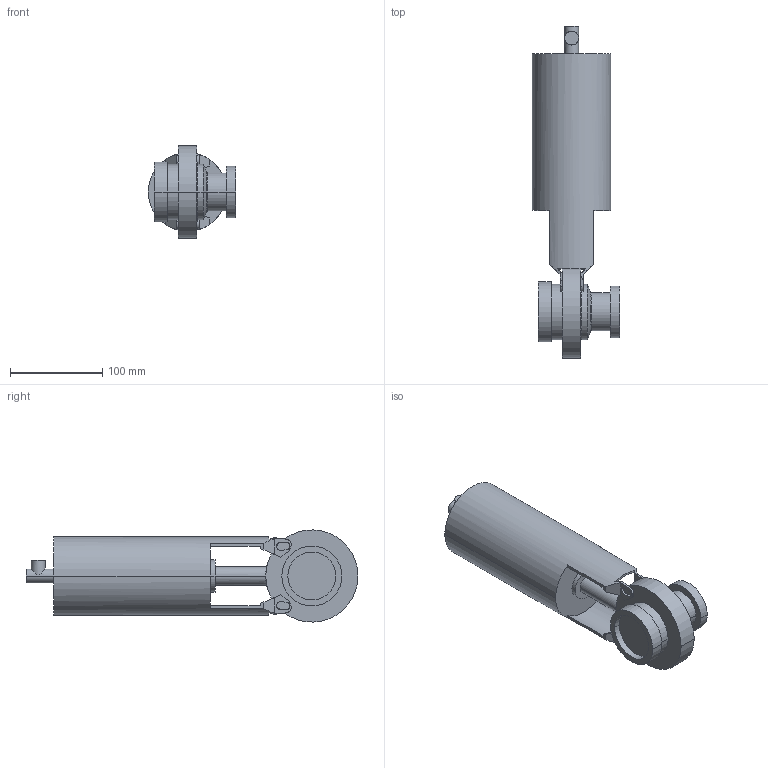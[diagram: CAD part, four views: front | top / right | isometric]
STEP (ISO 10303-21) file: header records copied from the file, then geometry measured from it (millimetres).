
FILE_DESCRIPTION(('Creo Elements/Direct Modeling STEP Export'),'2;1');
FILE_NAME('SV1-40-FZ-1K2G.stp','2013-02-15T14:06:38',(''),(''),'Creo Elements/Direct Modeling STEP processor for AP214 (Solid Model)','Creo Elements/Direct Modeling 17.0D 15-Jul-2011 (C) Parametric Technology GmbH','');
FILE_SCHEMA(('AUTOMOTIVE_DESIGN { 1 0 10303 214 1 1 1 1 }'));
Length unit declared in the file: millimetre
Products named in the file (2): SV1-40-FZ-1K2G
Assembly tree (1 placements, depth 2):
  SV1-40-FZ-1K2G
    SV1-40-FZ-1K2G
Bounding box: 94.5 x 359.93 x 99.92 mm (x, y, z)
Volume: 1316659.8 mm3; surface area: 116027.1 mm2
Topology: 1 solids, 1 shells, 121 faces, 338 edges, 215 vertices
Faces by surface type: plane 76, cylinder 39, torus 4, cone 2
Entity records: 4201 total; most frequent: CARTESIAN_POINT 1163, ORIENTED_EDGE 676, DIRECTION 593, EDGE_CURVE 338, VERTEX_POINT 215, AXIS2_PLACEMENT_3D 202, VECTOR 189, LINE 189
